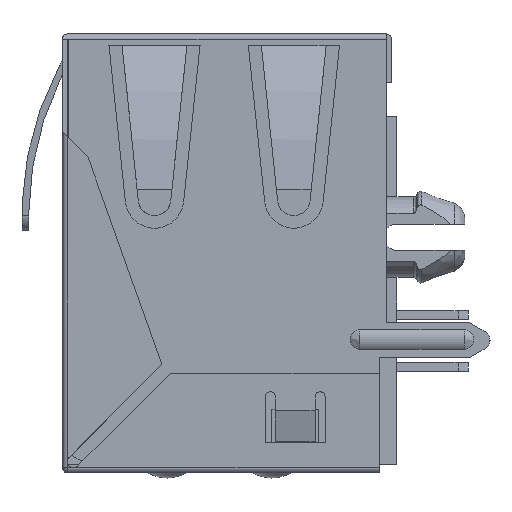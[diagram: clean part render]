
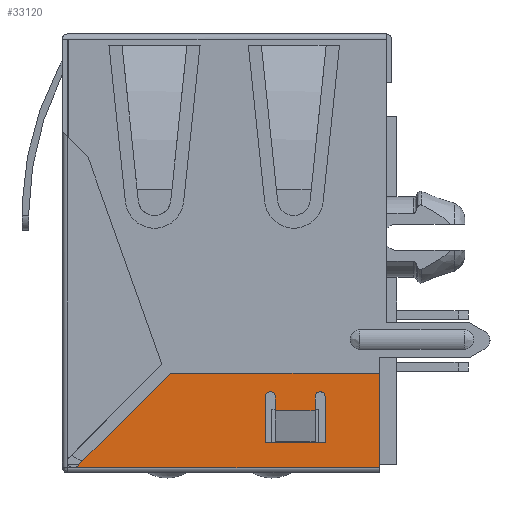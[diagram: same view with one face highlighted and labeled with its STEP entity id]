
A CAD part, left-side view. The second image highlights one B-rep face of the part: STEP entity #33120.
In plain terms, the highlighted planar face has unit normal (-1, 0, 0).
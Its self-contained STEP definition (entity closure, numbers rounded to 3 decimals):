
#424 = DIRECTION ( 'NONE',  ( 0., -1., 0. ) ) ;
#1368 = LINE ( 'NONE', #54763, #46402 ) ;
#1638 = ORIENTED_EDGE ( 'NONE', *, *, #5357, .T. ) ;
#2555 = AXIS2_PLACEMENT_3D ( 'NONE', #44495, #44180, #39082 ) ;
#2641 = VERTEX_POINT ( 'NONE', #9566 ) ;
#3281 = ORIENTED_EDGE ( 'NONE', *, *, #25587, .T. ) ;
#3308 = EDGE_CURVE ( 'NONE', #53731, #37620, #23432, .T. ) ;
#3548 = DIRECTION ( 'NONE',  ( 0., 0., 1. ) ) ;
#3663 = VERTEX_POINT ( 'NONE', #34603 ) ;
#3842 = CARTESIAN_POINT ( 'NONE',  ( -12.598, -0.242, -16.637 ) ) ;
#4487 = DIRECTION ( 'NONE',  ( 0., 0., 1. ) ) ;
#4813 = LINE ( 'NONE', #28760, #21384 ) ;
#5357 = EDGE_CURVE ( 'NONE', #60839, #60053, #4813, .T. ) ;
#5897 = LINE ( 'NONE', #54498, #41507 ) ;
#7105 = CARTESIAN_POINT ( 'NONE',  ( -12.598, -10.086, -14.789 ) ) ;
#7228 = VERTEX_POINT ( 'NONE', #12917 ) ;
#7988 = ORIENTED_EDGE ( 'NONE', *, *, #9252, .T. ) ;
#8125 = DIRECTION ( 'NONE',  ( 0., -1., 0. ) ) ;
#8602 = ORIENTED_EDGE ( 'NONE', *, *, #58167, .F. ) ;
#8918 = CIRCLE ( 'NONE', #44723, 0.2 ) ;
#9252 = EDGE_CURVE ( 'NONE', #48574, #38937, #45207, .T. ) ;
#9363 = DIRECTION ( 'NONE',  ( 0., -1., 0. ) ) ;
#9566 = CARTESIAN_POINT ( 'NONE',  ( -12.598, -12.197, -16.637 ) ) ;
#11555 = DIRECTION ( 'NONE',  ( 0., 0., 1. ) ) ;
#11608 = FACE_BOUND ( 'NONE', #51285, .T. ) ;
#12712 = EDGE_CURVE ( 'NONE', #44684, #2641, #24707, .T. ) ;
#12749 = AXIS2_PLACEMENT_3D ( 'NONE', #50968, #40496, #22122 ) ;
#12917 = CARTESIAN_POINT ( 'NONE',  ( -12.598, -0.444, -16.529 ) ) ;
#14124 = CARTESIAN_POINT ( 'NONE',  ( -12.598, -9.886, -13.87 ) ) ;
#17712 = DIRECTION ( 'NONE',  ( 0., -1., 0. ) ) ;
#18137 = VECTOR ( 'NONE', #424, 1000. ) ;
#20514 = EDGE_CURVE ( 'NONE', #60053, #48574, #8918, .T. ) ;
#20896 = DIRECTION ( 'NONE',  ( 0., 0., -1. ) ) ;
#20927 = ORIENTED_EDGE ( 'NONE', *, *, #55985, .T. ) ;
#21384 = VECTOR ( 'NONE', #4487, 1000. ) ;
#21469 = DIRECTION ( 'NONE',  ( 0., 0., -1. ) ) ;
#21775 = PLANE ( 'NONE',  #26705 ) ;
#22031 = EDGE_LOOP ( 'NONE', ( #32004, #25095, #32829, #53328, #8602 ) ) ;
#22122 = DIRECTION ( 'NONE',  ( 0., -1., 0. ) ) ;
#22608 = CARTESIAN_POINT ( 'NONE',  ( -12.598, -7.736, -13.87 ) ) ;
#23432 = LINE ( 'NONE', #47771, #55214 ) ;
#24707 = LINE ( 'NONE', #49383, #18137 ) ;
#25095 = ORIENTED_EDGE ( 'NONE', *, *, #31855, .T. ) ;
#25317 = DIRECTION ( 'NONE',  ( 0., -0.707, 0.707 ) ) ;
#25587 = EDGE_CURVE ( 'NONE', #26878, #36355, #40392, .T. ) ;
#26486 = EDGE_CURVE ( 'NONE', #7228, #53731, #1368, .T. ) ;
#26705 = AXIS2_PLACEMENT_3D ( 'NONE', #32958, #52168, #3548 ) ;
#26878 = VERTEX_POINT ( 'NONE', #22608 ) ;
#27707 = VECTOR ( 'NONE', #21469, 1000. ) ;
#28760 = CARTESIAN_POINT ( 'NONE',  ( -12.598, -9.686, -14.789 ) ) ;
#31046 = LINE ( 'NONE', #55377, #60482 ) ;
#31109 = FACE_OUTER_BOUND ( 'NONE', #22031, .T. ) ;
#31855 = EDGE_CURVE ( 'NONE', #2641, #37620, #35152, .T. ) ;
#32004 = ORIENTED_EDGE ( 'NONE', *, *, #12712, .T. ) ;
#32829 = ORIENTED_EDGE ( 'NONE', *, *, #3308, .F. ) ;
#32958 = CARTESIAN_POINT ( 'NONE',  ( -12.598, -0.171, -12.941 ) ) ;
#33120 = ADVANCED_FACE ( 'NONE', ( #11608, #31109 ), #21775, .T. ) ;
#33260 = CARTESIAN_POINT ( 'NONE',  ( -12.598, -8.911, -15.67 ) ) ;
#33266 = ORIENTED_EDGE ( 'NONE', *, *, #58034, .T. ) ;
#33668 = DIRECTION ( 'NONE',  ( 1., 0., 0. ) ) ;
#33812 = CARTESIAN_POINT ( 'NONE',  ( -12.598, -4.035, -12.941 ) ) ;
#34046 = CARTESIAN_POINT ( 'NONE',  ( -12.598, -10.086, -13.87 ) ) ;
#34603 = CARTESIAN_POINT ( 'NONE',  ( -12.598, -8.136, -14.411 ) ) ;
#35152 = LINE ( 'NONE', #39317, #35848 ) ;
#35848 = VECTOR ( 'NONE', #49222, 1000. ) ;
#36355 = VERTEX_POINT ( 'NONE', #52054 ) ;
#37620 = VERTEX_POINT ( 'NONE', #38895 ) ;
#38090 = ORIENTED_EDGE ( 'NONE', *, *, #39582, .T. ) ;
#38296 = CIRCLE ( 'NONE', #2555, 0.242 ) ;
#38895 = CARTESIAN_POINT ( 'NONE',  ( -12.598, -12.197, -12.941 ) ) ;
#38937 = VERTEX_POINT ( 'NONE', #54877 ) ;
#39082 = DIRECTION ( 'NONE',  ( 0., -1., 0. ) ) ;
#39317 = CARTESIAN_POINT ( 'NONE',  ( -12.598, -12.197, -14.789 ) ) ;
#39582 = EDGE_CURVE ( 'NONE', #38937, #50907, #57560, .T. ) ;
#39722 = CARTESIAN_POINT ( 'NONE',  ( -12.598, -7.736, -15.67 ) ) ;
#40392 = CIRCLE ( 'NONE', #12749, 0.2 ) ;
#40420 = VECTOR ( 'NONE', #8125, 1000. ) ;
#40496 = DIRECTION ( 'NONE',  ( 1., 0., 0. ) ) ;
#41507 = VECTOR ( 'NONE', #20896, 1000. ) ;
#42533 = VECTOR ( 'NONE', #43842, 1000. ) ;
#43842 = DIRECTION ( 'NONE',  ( 0., 1., 0. ) ) ;
#44180 = DIRECTION ( 'NONE',  ( -1., 0., 0. ) ) ;
#44495 = CARTESIAN_POINT ( 'NONE',  ( -12.598, -0.242, -16.394 ) ) ;
#44684 = VERTEX_POINT ( 'NONE', #3842 ) ;
#44723 = AXIS2_PLACEMENT_3D ( 'NONE', #14124, #33668, #9363 ) ;
#45207 = LINE ( 'NONE', #7105, #27707 ) ;
#46402 = VECTOR ( 'NONE', #25317, 1000. ) ;
#47771 = CARTESIAN_POINT ( 'NONE',  ( -12.598, -8.116, -12.941 ) ) ;
#48574 = VERTEX_POINT ( 'NONE', #34046 ) ;
#49222 = DIRECTION ( 'NONE',  ( 0., 0., 1. ) ) ;
#49383 = CARTESIAN_POINT ( 'NONE',  ( -12.598, -6.184, -16.637 ) ) ;
#50907 = VERTEX_POINT ( 'NONE', #39722 ) ;
#50968 = CARTESIAN_POINT ( 'NONE',  ( -12.598, -7.936, -13.87 ) ) ;
#51285 = EDGE_LOOP ( 'NONE', ( #1638, #52360, #7988, #38090, #20927, #3281, #52731, #33266 ) ) ;
#51616 = CARTESIAN_POINT ( 'NONE',  ( -12.598, -6.184, -14.411 ) ) ;
#51868 = CARTESIAN_POINT ( 'NONE',  ( -12.598, -9.686, -13.87 ) ) ;
#52054 = CARTESIAN_POINT ( 'NONE',  ( -12.598, -8.136, -13.87 ) ) ;
#52168 = DIRECTION ( 'NONE',  ( -1., 0., 0. ) ) ;
#52360 = ORIENTED_EDGE ( 'NONE', *, *, #20514, .T. ) ;
#52731 = ORIENTED_EDGE ( 'NONE', *, *, #59980, .T. ) ;
#53328 = ORIENTED_EDGE ( 'NONE', *, *, #26486, .F. ) ;
#53731 = VERTEX_POINT ( 'NONE', #33812 ) ;
#54498 = CARTESIAN_POINT ( 'NONE',  ( -12.598, -8.136, -14.789 ) ) ;
#54763 = CARTESIAN_POINT ( 'NONE',  ( -12.598, -2.24, -14.735 ) ) ;
#54877 = CARTESIAN_POINT ( 'NONE',  ( -12.598, -10.086, -15.67 ) ) ;
#55214 = VECTOR ( 'NONE', #17712, 1000. ) ;
#55377 = CARTESIAN_POINT ( 'NONE',  ( -12.598, -7.736, -14.789 ) ) ;
#55985 = EDGE_CURVE ( 'NONE', #50907, #26878, #31046, .T. ) ;
#57344 = LINE ( 'NONE', #51616, #40420 ) ;
#57560 = LINE ( 'NONE', #33260, #42533 ) ;
#58034 = EDGE_CURVE ( 'NONE', #3663, #60839, #57344, .T. ) ;
#58167 = EDGE_CURVE ( 'NONE', #44684, #7228, #38296, .T. ) ;
#59980 = EDGE_CURVE ( 'NONE', #36355, #3663, #5897, .T. ) ;
#60053 = VERTEX_POINT ( 'NONE', #51868 ) ;
#60482 = VECTOR ( 'NONE', #11555, 1000. ) ;
#60839 = VERTEX_POINT ( 'NONE', #63022 ) ;
#63022 = CARTESIAN_POINT ( 'NONE',  ( -12.598, -9.686, -14.411 ) ) ;
